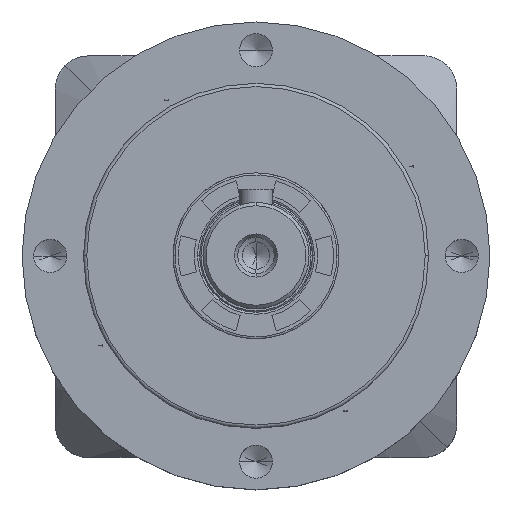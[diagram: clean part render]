
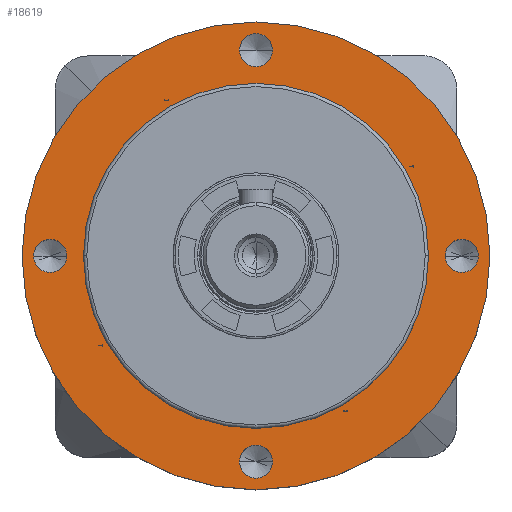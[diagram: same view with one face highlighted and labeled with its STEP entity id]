
A CAD part, top view. The second image highlights one B-rep face of the part: STEP entity #18619.
In plain terms, the highlighted planar face has unit normal (0, 0, 1).
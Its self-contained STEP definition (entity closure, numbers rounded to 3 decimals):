
#85 = DIRECTION ( 'NONE',  ( 0., 0., 1. ) ) ;
#107 = VERTEX_POINT ( 'NONE', #15983 ) ;
#711 = CARTESIAN_POINT ( 'NONE',  ( 28.5, 0., 14.9 ) ) ;
#922 = DIRECTION ( 'NONE',  ( 0., 0., 1. ) ) ;
#1317 = CARTESIAN_POINT ( 'NONE',  ( 0., 0., 14.9 ) ) ;
#2006 = VERTEX_POINT ( 'NONE', #25725 ) ;
#2056 = CIRCLE ( 'NONE', #25045, 2.5 ) ;
#2594 = EDGE_CURVE ( 'NONE', #5559, #23618, #18907, .T. ) ;
#2667 = ORIENTED_EDGE ( 'NONE', *, *, #18504, .F. ) ;
#2800 = DIRECTION ( 'NONE',  ( 1., 0., 0. ) ) ;
#3106 = VERTEX_POINT ( 'NONE', #13129 ) ;
#3291 = DIRECTION ( 'NONE',  ( 0., 0., 1. ) ) ;
#3510 = DIRECTION ( 'NONE',  ( 1., 0., 0. ) ) ;
#3574 = DIRECTION ( 'NONE',  ( 0., 0., 1. ) ) ;
#4823 = VERTEX_POINT ( 'NONE', #31089 ) ;
#4865 = CARTESIAN_POINT ( 'NONE',  ( -33.5, 0., 14.9 ) ) ;
#5326 = ORIENTED_EDGE ( 'NONE', *, *, #2594, .F. ) ;
#5559 = VERTEX_POINT ( 'NONE', #17167 ) ;
#5778 = CARTESIAN_POINT ( 'NONE',  ( 0., -31., 14.9 ) ) ;
#5844 = EDGE_CURVE ( 'NONE', #32147, #3106, #30067, .T. ) ;
#5987 = CARTESIAN_POINT ( 'NONE',  ( 31., 0., 14.9 ) ) ;
#6548 = DIRECTION ( 'NONE',  ( 1., 0., 0. ) ) ;
#7351 = AXIS2_PLACEMENT_3D ( 'NONE', #9206, #18772, #26577 ) ;
#8026 = ORIENTED_EDGE ( 'NONE', *, *, #9183, .F. ) ;
#8285 = DIRECTION ( 'NONE',  ( 1., 0., 0. ) ) ;
#8451 = FACE_OUTER_BOUND ( 'NONE', #11597, .T. ) ;
#8471 = EDGE_LOOP ( 'NONE', ( #25547, #18567 ) ) ;
#8479 = ORIENTED_EDGE ( 'NONE', *, *, #5844, .F. ) ;
#8605 = EDGE_CURVE ( 'NONE', #3106, #32147, #2056, .T. ) ;
#8745 = ORIENTED_EDGE ( 'NONE', *, *, #12950, .T. ) ;
#9072 = AXIS2_PLACEMENT_3D ( 'NONE', #5987, #3291, #3510 ) ;
#9154 = DIRECTION ( 'NONE',  ( 0., 0., 1. ) ) ;
#9183 = EDGE_CURVE ( 'NONE', #12988, #29340, #13732, .T. ) ;
#9206 = CARTESIAN_POINT ( 'NONE',  ( 0., 0., 14.9 ) ) ;
#9227 = EDGE_CURVE ( 'NONE', #2006, #107, #23052, .T. ) ;
#9675 = DIRECTION ( 'NONE',  ( 1., 0., 0. ) ) ;
#9904 = DIRECTION ( 'NONE',  ( 1., 0., 0. ) ) ;
#9920 = CARTESIAN_POINT ( 'NONE',  ( 0., 0., 14.9 ) ) ;
#10027 = ORIENTED_EDGE ( 'NONE', *, *, #12380, .F. ) ;
#10409 = VERTEX_POINT ( 'NONE', #23110 ) ;
#10616 = CARTESIAN_POINT ( 'NONE',  ( 0., 31., 14.9 ) ) ;
#10858 = CARTESIAN_POINT ( 'NONE',  ( 31., 0., 14.9 ) ) ;
#11597 = EDGE_LOOP ( 'NONE', ( #24695, #8745 ) ) ;
#11772 = ORIENTED_EDGE ( 'NONE', *, *, #8605, .F. ) ;
#12380 = EDGE_CURVE ( 'NONE', #23618, #5559, #27249, .T. ) ;
#12396 = CARTESIAN_POINT ( 'NONE',  ( 0., 0., 14.9 ) ) ;
#12599 = DIRECTION ( 'NONE',  ( 1., 0., 0. ) ) ;
#12950 = EDGE_CURVE ( 'NONE', #107, #2006, #28017, .T. ) ;
#12988 = VERTEX_POINT ( 'NONE', #4865 ) ;
#13129 = CARTESIAN_POINT ( 'NONE',  ( -2.5, 31., 14.9 ) ) ;
#13319 = DIRECTION ( 'NONE',  ( 1., 0., 0. ) ) ;
#13395 = DIRECTION ( 'NONE',  ( 0., 0., 1. ) ) ;
#13732 = CIRCLE ( 'NONE', #14021, 2.5 ) ;
#13856 = ORIENTED_EDGE ( 'NONE', *, *, #23833, .F. ) ;
#14021 = AXIS2_PLACEMENT_3D ( 'NONE', #14192, #23977, #31601 ) ;
#14192 = CARTESIAN_POINT ( 'NONE',  ( -31., 0., 14.9 ) ) ;
#14507 = AXIS2_PLACEMENT_3D ( 'NONE', #24026, #29024, #28708 ) ;
#14640 = AXIS2_PLACEMENT_3D ( 'NONE', #5778, #13395, #8285 ) ;
#14918 = VERTEX_POINT ( 'NONE', #31485 ) ;
#15077 = FACE_BOUND ( 'NONE', #18200, .T. ) ;
#15143 = CIRCLE ( 'NONE', #22791, 2.5 ) ;
#15328 = AXIS2_PLACEMENT_3D ( 'NONE', #1317, #9154, #6548 ) ;
#15983 = CARTESIAN_POINT ( 'NONE',  ( -35.25, 0., 14.9 ) ) ;
#16647 = EDGE_CURVE ( 'NONE', #30876, #4823, #15143, .T. ) ;
#17167 = CARTESIAN_POINT ( 'NONE',  ( 26., 0., 14.9 ) ) ;
#18200 = EDGE_LOOP ( 'NONE', ( #10027, #5326 ) ) ;
#18504 = EDGE_CURVE ( 'NONE', #4823, #30876, #31420, .T. ) ;
#18567 = ORIENTED_EDGE ( 'NONE', *, *, #29265, .F. ) ;
#18619 = ADVANCED_FACE ( 'NONE', ( #18957, #24004, #31014, #32211, #15077, #8451 ), #26095, .T. ) ;
#18772 = DIRECTION ( 'NONE',  ( 0., 0., 1. ) ) ;
#18907 = CIRCLE ( 'NONE', #19147, 26. ) ;
#18957 = FACE_BOUND ( 'NONE', #8471, .T. ) ;
#19147 = AXIS2_PLACEMENT_3D ( 'NONE', #12396, #25070, #12599 ) ;
#19292 = DIRECTION ( 'NONE',  ( 1., 0., 0. ) ) ;
#20015 = EDGE_CURVE ( 'NONE', #10409, #14918, #26729, .T. ) ;
#20099 = CARTESIAN_POINT ( 'NONE',  ( -31., 0., 14.9 ) ) ;
#20120 = DIRECTION ( 'NONE',  ( 0., 0., 1. ) ) ;
#20974 = DIRECTION ( 'NONE',  ( 1., 0., 0. ) ) ;
#21477 = EDGE_LOOP ( 'NONE', ( #13856, #8026 ) ) ;
#21490 = AXIS2_PLACEMENT_3D ( 'NONE', #30945, #922, #13319 ) ;
#22305 = AXIS2_PLACEMENT_3D ( 'NONE', #9920, #20120, #19292 ) ;
#22698 = DIRECTION ( 'NONE',  ( 0., 0., 1. ) ) ;
#22791 = AXIS2_PLACEMENT_3D ( 'NONE', #10858, #3574, #20974 ) ;
#23052 = CIRCLE ( 'NONE', #7351, 35.25 ) ;
#23064 = CARTESIAN_POINT ( 'NONE',  ( -28.5, 0., 14.9 ) ) ;
#23110 = CARTESIAN_POINT ( 'NONE',  ( 2.5, -31., 14.9 ) ) ;
#23618 = VERTEX_POINT ( 'NONE', #25914 ) ;
#23833 = EDGE_CURVE ( 'NONE', #29340, #12988, #25833, .T. ) ;
#23977 = DIRECTION ( 'NONE',  ( 0., 0., 1. ) ) ;
#24004 = FACE_BOUND ( 'NONE', #21477, .T. ) ;
#24026 = CARTESIAN_POINT ( 'NONE',  ( 0., -31., 14.9 ) ) ;
#24695 = ORIENTED_EDGE ( 'NONE', *, *, #9227, .T. ) ;
#25045 = AXIS2_PLACEMENT_3D ( 'NONE', #10616, #22698, #2800 ) ;
#25070 = DIRECTION ( 'NONE',  ( 0., 0., 1. ) ) ;
#25348 = CIRCLE ( 'NONE', #14640, 2.5 ) ;
#25547 = ORIENTED_EDGE ( 'NONE', *, *, #20015, .F. ) ;
#25701 = ORIENTED_EDGE ( 'NONE', *, *, #16647, .F. ) ;
#25725 = CARTESIAN_POINT ( 'NONE',  ( 35.25, 0., 14.9 ) ) ;
#25833 = CIRCLE ( 'NONE', #27061, 2.5 ) ;
#25914 = CARTESIAN_POINT ( 'NONE',  ( -26., 0., 14.9 ) ) ;
#26095 = PLANE ( 'NONE',  #15328 ) ;
#26577 = DIRECTION ( 'NONE',  ( 1., 0., 0. ) ) ;
#26729 = CIRCLE ( 'NONE', #14507, 2.5 ) ;
#27061 = AXIS2_PLACEMENT_3D ( 'NONE', #20099, #85, #9904 ) ;
#27249 = CIRCLE ( 'NONE', #22305, 26. ) ;
#27298 = AXIS2_PLACEMENT_3D ( 'NONE', #29660, #32070, #9675 ) ;
#28017 = CIRCLE ( 'NONE', #27298, 35.25 ) ;
#28708 = DIRECTION ( 'NONE',  ( 1., 0., 0. ) ) ;
#29024 = DIRECTION ( 'NONE',  ( 0., 0., 1. ) ) ;
#29265 = EDGE_CURVE ( 'NONE', #14918, #10409, #25348, .T. ) ;
#29340 = VERTEX_POINT ( 'NONE', #23064 ) ;
#29660 = CARTESIAN_POINT ( 'NONE',  ( 0., 0., 14.9 ) ) ;
#30067 = CIRCLE ( 'NONE', #21490, 2.5 ) ;
#30428 = CARTESIAN_POINT ( 'NONE',  ( 2.5, 31., 14.9 ) ) ;
#30502 = EDGE_LOOP ( 'NONE', ( #2667, #25701 ) ) ;
#30876 = VERTEX_POINT ( 'NONE', #711 ) ;
#30945 = CARTESIAN_POINT ( 'NONE',  ( 0., 31., 14.9 ) ) ;
#31014 = FACE_BOUND ( 'NONE', #30502, .T. ) ;
#31089 = CARTESIAN_POINT ( 'NONE',  ( 33.5, 0., 14.9 ) ) ;
#31294 = EDGE_LOOP ( 'NONE', ( #8479, #11772 ) ) ;
#31420 = CIRCLE ( 'NONE', #9072, 2.5 ) ;
#31485 = CARTESIAN_POINT ( 'NONE',  ( -2.5, -31., 14.9 ) ) ;
#31601 = DIRECTION ( 'NONE',  ( 1., 0., 0. ) ) ;
#32070 = DIRECTION ( 'NONE',  ( 0., 0., 1. ) ) ;
#32147 = VERTEX_POINT ( 'NONE', #30428 ) ;
#32211 = FACE_BOUND ( 'NONE', #31294, .T. ) ;
